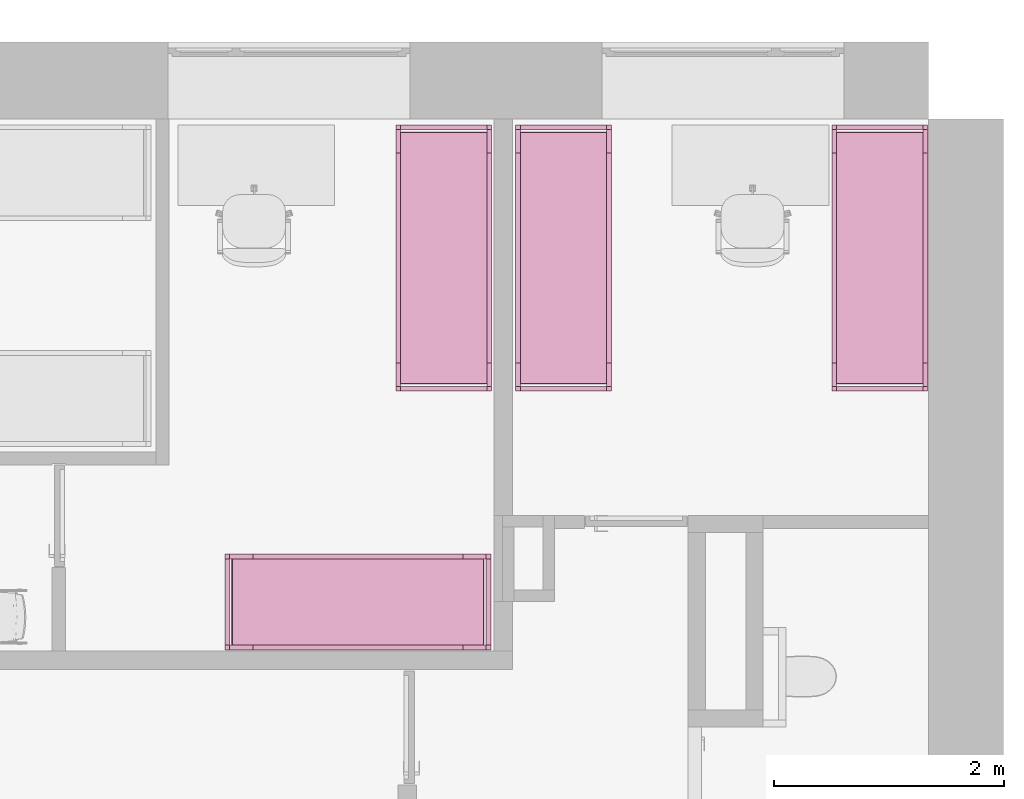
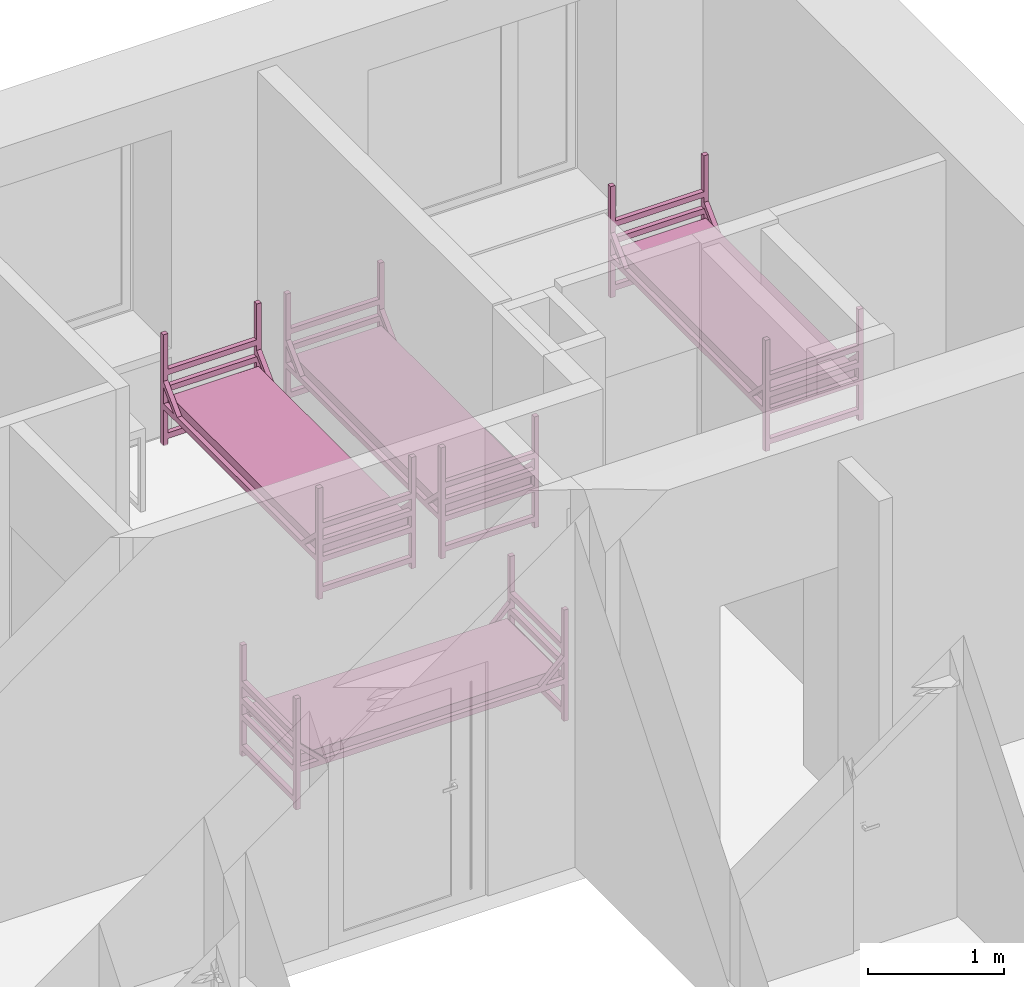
# One storey, part 44 of 46: 4 furnishings.
"""IFC2X3 building model written with IfcOpenShell, lengths in millimetres."""

from ifc_helpers import new_model, entity, si_unit, converted_unit, derived_unit, direction, frame, frame_2d, origin, origin_2d_with_axis, place, context, subcontext, project, spatial, polyline, circle_curve, parameter, trimmed, segment, composite_curve, rectangle, outline, extrude, source, transform, mapped, material, type_object, type_shapes, element, save


model = new_model("IFC2X3")

# Units and contexts
model_context = context("Model", 3, precision=0.01, world=origin(), true_north=direction((6.12303176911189e-17, 1.0)))
body_context = subcontext(model_context, "Body", "Model", "MODEL_VIEW")
ifc_project = project(units=[si_unit("LENGTHUNIT", "METRE", prefix="MILLI"), si_unit("AREAUNIT", "SQUARE_METRE"), si_unit("VOLUMEUNIT", "CUBIC_METRE"), converted_unit("PLANEANGLEUNIT", "DEGREE", entity("IfcRatioMeasure", 0.0174532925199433), si_unit("PLANEANGLEUNIT", "RADIAN"), dimensions=[0, 0, 0, 0, 0, 0, 0]), si_unit("MASSUNIT", "GRAM", prefix="KILO"), derived_unit("MASSDENSITYUNIT", [(si_unit("MASSUNIT", "GRAM", prefix="KILO"), 1), (si_unit("LENGTHUNIT", "METRE"), -3)]), si_unit("TIMEUNIT", "SECOND"), si_unit("FREQUENCYUNIT", "HERTZ"), si_unit("THERMODYNAMICTEMPERATUREUNIT", "DEGREE_CELSIUS"), derived_unit("THERMALTRANSMITTANCEUNIT", [(si_unit("MASSUNIT", "GRAM", prefix="KILO"), 1), (si_unit("THERMODYNAMICTEMPERATUREUNIT", "KELVIN"), -1), (si_unit("TIMEUNIT", "SECOND"), -3)]), derived_unit("VOLUMETRICFLOWRATEUNIT", [(si_unit("LENGTHUNIT", "METRE"), 3), (si_unit("TIMEUNIT", "SECOND"), -1)]), si_unit("ELECTRICCURRENTUNIT", "AMPERE"), si_unit("ELECTRICVOLTAGEUNIT", "VOLT"), si_unit("POWERUNIT", "WATT"), si_unit("FORCEUNIT", "NEWTON", prefix="KILO"), si_unit("ILLUMINANCEUNIT", "LUX"), si_unit("LUMINOUSFLUXUNIT", "LUMEN"), si_unit("LUMINOUSINTENSITYUNIT", "CANDELA"), derived_unit("USERDEFINED", [(si_unit("MASSUNIT", "GRAM", prefix="KILO"), -1), (si_unit("LENGTHUNIT", "METRE"), -2), (si_unit("TIMEUNIT", "SECOND"), 3), (si_unit("LUMINOUSFLUXUNIT", "LUMEN"), 1)]), derived_unit("LINEARVELOCITYUNIT", [(si_unit("LENGTHUNIT", "METRE"), 1), (si_unit("TIMEUNIT", "SECOND"), -1)]), si_unit("PRESSUREUNIT", "PASCAL"), derived_unit("USERDEFINED", [(si_unit("LENGTHUNIT", "METRE"), -2), (si_unit("MASSUNIT", "GRAM", prefix="KILO"), 1), (si_unit("TIMEUNIT", "SECOND"), -2)]), derived_unit("LINEARFORCEUNIT", [(si_unit("MASSUNIT", "GRAM", prefix="KILO"), 1), (si_unit("LENGTHUNIT", "METRE"), 1), (si_unit("TIMEUNIT", "SECOND"), -2), (si_unit("LENGTHUNIT", "METRE"), -1)]), derived_unit("PLANARFORCEUNIT", [(si_unit("MASSUNIT", "GRAM", prefix="KILO"), 1), (si_unit("LENGTHUNIT", "METRE"), 1), (si_unit("TIMEUNIT", "SECOND"), -2), (si_unit("LENGTHUNIT", "METRE"), -2)])], contexts=[model_context])

# Site, building, storey, space
site_placement = place(None, origin())
site = spatial("IfcSite", under=ifc_project, at=site_placement, Name="Default", CompositionType="ELEMENT")
building_placement = place(site_placement, origin())
building = spatial("IfcBuilding", under=site, at=building_placement, Name="SMA ARH", CompositionType="ELEMENT")
storey_placement = place(building_placement, frame((0.0, 0.0, 9910.0)))
storey = spatial("IfcBuildingStorey", under=building, at=storey_placement, Name="4 Korrus", CompositionType="ELEMENT", Elevation=9909.9999999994)
space_1_placement = place(storey_placement, origin())
space_1 = spatial("IfcSpace", under=storey, at=space_1_placement, Name="4-31/1", CompositionType="ELEMENT", InteriorOrExteriorSpace="INTERNAL")

# Furnishings
ifc_material = material(Name="Madrats")
furniture_type_1 = type_object("IfcFurnitureType", Name="Kasarmu voodi ühekordne 2308x830:Kasarmu voodi ühekordne 2308x830", material=ifc_material)
shared_shape_1 = source(origin(), body_context, "Body", "SweptSolid", [
    extrude(rectangle(XDim=39.9999999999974, YDim=750.000000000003, at=frame_2d((-1.35003119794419e-13, -2.8421709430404e-14), x_axis=(1.0, 0.0))), frame((1.68638457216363, -1226.7969571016, 55.0), z_axis=(0.0, 0.0, 1.0), x_axis=(0.0, -1.0, 0.0)), (0.0, 0.0, 1.0), 49.9999999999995),
    extrude(rectangle(XDim=39.9999999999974, YDim=750.000000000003, at=frame_2d((-1.35003119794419e-13, -2.8421709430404e-14), x_axis=(1.0, 0.0))), frame((1.68638457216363, -1226.7969571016, 325.0), z_axis=(0.0, 0.0, 1.0), x_axis=(0.0, -1.0, 0.0)), (0.0, 0.0, 1.0), 49.9999999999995),
    extrude(rectangle(XDim=39.9999999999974, YDim=750.000000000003, at=frame_2d((-1.35003119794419e-13, -2.8421709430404e-14), x_axis=(1.0, 0.0))), frame((1.68638457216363, -1226.7969571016, 475.0), z_axis=(0.0, 0.0, 1.0), x_axis=(0.0, -1.0, 0.0)), (0.0, 0.0, 1.0), 49.9999999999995),
    extrude(rectangle(XDim=39.9999999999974, YDim=750.000000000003, at=frame_2d((-1.35003119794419e-13, -2.8421709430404e-14), x_axis=(1.0, 0.0))), frame((1.68638457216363, -1226.7969571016, 625.0), z_axis=(0.0, 0.0, 1.0), x_axis=(0.0, -1.0, 0.0)), (0.0, 0.0, 1.0), 50.0000000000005),
    extrude(rectangle(XDim=39.9999999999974, YDim=750.000000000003, at=frame_2d((1.35003119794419e-13, -2.8421709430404e-14), x_axis=(1.0, 0.0))), frame((1.68638457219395, 1041.2030428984, 55.0), z_axis=(0.0, 0.0, 1.0), x_axis=(0.0, -1.0, 0.0)), (0.0, 0.0, 1.0), 50.0000000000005),
    extrude(rectangle(XDim=39.9999999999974, YDim=750.000000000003, at=frame_2d((1.35003119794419e-13, -2.8421709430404e-14), x_axis=(1.0, 0.0))), frame((1.68638457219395, 1041.2030428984, 325.0), z_axis=(0.0, 0.0, 1.0), x_axis=(0.0, -1.0, 0.0)), (0.0, 0.0, 1.0), 50.0000000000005),
    extrude(rectangle(XDim=39.9999999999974, YDim=750.000000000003, at=frame_2d((1.35003119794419e-13, -2.8421709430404e-14), x_axis=(1.0, 0.0))), frame((1.68638457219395, 1041.2030428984, 475.0), z_axis=(0.0, 0.0, 1.0), x_axis=(0.0, -1.0, 0.0)), (0.0, 0.0, 1.0), 50.0000000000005),
    extrude(rectangle(XDim=39.9999999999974, YDim=750.000000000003, at=frame_2d((1.35003119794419e-13, -2.8421709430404e-14), x_axis=(1.0, 0.0))), frame((1.68638457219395, 1041.2030428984, 625.0), z_axis=(0.0, 0.0, 1.0), x_axis=(0.0, -1.0, 0.0)), (0.0, 0.0, 1.0), 49.9999999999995),
    extrude(outline(composite_curve([segment(trimmed(circle_curve(frame_2d((1085.0, -40.0), x_axis=(1.0, 0.0)), 10.0), [parameter(270.0)], [parameter(0.0)], True, "PARAMETER"), True, "CONTINUOUS"), segment(polyline([(1095.0, -40.0), (1095.0, 40.0)]), True, "CONTINUOUS"), segment(trimmed(circle_curve(frame_2d((1085.0, 40.0), x_axis=(1.0, 0.0)), 10.0), [parameter(0.0)], [parameter(90.0000000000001)], True, "PARAMETER"), True, "CONTINUOUS"), segment(polyline([(1085.0, 50.0), (-1085.0, 50.0)]), True, "CONTINUOUS"), segment(trimmed(circle_curve(frame_2d((-1085.0, 40.0), x_axis=(1.0, 0.0)), 10.0), [parameter(90.0000000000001)], [parameter(180.0)], True, "PARAMETER"), True, "CONTINUOUS"), segment(polyline([(-1095.0, 40.0), (-1095.0, -40.0)]), True, "CONTINUOUS"), segment(trimmed(circle_curve(frame_2d((-1085.0, -40.0), x_axis=(1.0, 0.0)), 10.0), [parameter(180.0)], [parameter(270.0)], True, "PARAMETER"), True, "CONTINUOUS"), segment(polyline([(-1085.0, -50.0), (1085.0, -50.0)]), True, "CONTINUOUS")], self_intersect=False)), frame((-373.313615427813, -92.7969571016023, 405.0), z_axis=(1.0, 0.0, 0.0), x_axis=(0.0, -1.0, 0.0)), (0.0, 0.0, 1.0), 750.000000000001),
    extrude(outline(polyline([(-1114.0, -100.0), (1114.0, -100.0), (1114.0, -50.0), (961.59199141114, -50.0), (1114.0, 100.0), (1114.0, 150.0), (910.789321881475, -50.0), (-910.789321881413, -50.0), (-1114.0, 150.0), (-1114.0, 100.0), (-961.591991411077, -50.0), (-1114.0, -50.0), (-1114.0, -100.0)])), frame((-413.313615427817, -92.7969571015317, 430.0), z_axis=(1.0, 0.0, 0.0), x_axis=(0.0, 1.0, 0.0)), (0.0, 0.0, 1.0), 39.9999999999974),
    extrude(outline(polyline([(-1114.0, -100.0), (1114.0, -100.0), (1114.0, -50.0), (961.591991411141, -50.0), (1114.0, 100.0), (1114.0, 150.0), (910.789321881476, -50.0), (-910.789321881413, -50.0), (-1114.0, 150.0), (-1114.0, 100.0), (-961.591991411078, -50.0), (-1114.0, -50.0), (-1114.0, -100.0)])), frame((376.686384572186, -92.796957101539, 430.0), z_axis=(1.0, 0.0, 0.0), x_axis=(0.0, 1.0, 0.0)), (0.0, 0.0, 1.0), 39.9999999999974),
    extrude(rectangle(XDim=39.9999999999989, YDim=39.9999999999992, at=frame_2d((-6.75015598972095e-14, 0.0), x_axis=(1.0, 0.0))), frame((396.686384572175, -1226.79695710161, 0.0), z_axis=(0.0, 0.0, 1.0), x_axis=(0.0, 1.0, 0.0)), (0.0, 0.0, 1.0), 995.0),
    extrude(rectangle(XDim=39.9999999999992, YDim=39.9999999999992, at=frame_2d((-1.35003119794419e-13, 0.0), x_axis=(1.0, 0.0))), frame((396.686384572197, 1041.20304289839, 0.0), z_axis=(0.0, 0.0, 1.0), x_axis=(0.0, 1.0, 0.0)), (0.0, 0.0, 1.0), 995.0),
    extrude(rectangle(XDim=40.0000000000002, YDim=39.9999999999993, at=frame_2d((-1.35003119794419e-13, 0.0), x_axis=(1.0, 0.0))), frame((-393.313615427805, 1041.2030428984, 0.0), z_axis=(0.0, 0.0, 1.0), x_axis=(0.0, 1.0, 0.0)), (0.0, 0.0, 1.0), 995.0),
    extrude(rectangle(XDim=39.9999999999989, YDim=39.9999999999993, at=frame_2d((-6.75015598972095e-14, 0.0), x_axis=(1.0, 0.0))), frame((-393.313615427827, -1226.7969571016, 0.0), z_axis=(0.0, 0.0, 1.0), x_axis=(0.0, 1.0, 0.0)), (0.0, 0.0, 1.0), 995.0),
])
type_shapes(furniture_type_1, [shared_shape_1])
for number, where, z_axis, x_axis, name in (
    (1, (35149.7939213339, 11199.8894274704, 0.0), (0.0, 0.0, 1.0), (-1.0, 0.0, 0.0), "Kasarmu voodi ühekordne 2308x830:Kasarmu voodi ühekordne 2308x830"),
    (2, (37895.0, 11199.8894274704, 0.0), (0.0, 0.0, 1.0), (-1.0, 0.0, 0.0), "Kasarmu voodi ühekordne 2308x830:Kasarmu voodi ühekordne 2308x830"),
):
    element("IfcFurnishingElement", number, at=place(space_1_placement, frame(where, z_axis=z_axis, x_axis=x_axis)), inside=space_1, type_object=furniture_type_1, material=ifc_material, Name=name, ObjectType="Kasarmu voodi ühekordne 2308x830:Kasarmu voodi ühekordne 2308x830", context=body_context, shape_type="MappedRepresentation", body=[
        mapped(shared_shape_1, transform((0.0, 0.0, 0.0), scale=1.0)),
    ])

# Space
space_2_placement = place(storey_placement, origin())
space_2 = spatial("IfcSpace", under=storey, at=space_2_placement, Name="4-31", CompositionType="ELEMENT", InteriorOrExteriorSpace="INTERNAL")

# Furnishings
furnishing_1_placement = place(space_2_placement, frame((33270.0, 8305.5014052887, 0.0), z_axis=(0.0, 0.0, 1.0), x_axis=(0.0, 1.0, 0.0)))
element("IfcFurnishingElement", 3, at=furnishing_1_placement, inside=space_2, type_object=furniture_type_1, material=ifc_material, Name="Kasarmu voodi ühekordne 2308x830:Kasarmu voodi ühekordne 2308x830", ObjectType="Kasarmu voodi ühekordne 2308x830:Kasarmu voodi ühekordne 2308x830", context=body_context, shape_type="MappedRepresentation", body=[
    mapped(shared_shape_1, transform((0.0, 0.0, 0.0), scale=1.0)),
])
furniture_type_2 = type_object("IfcFurnitureType", Name="Kasarmu voodi ühekordne 2308x830:Kasarmu voodi ühekordne 2308x830", material=ifc_material)
shared_shape_2 = source(origin(), body_context, "Body", "SweptSolid", [
    extrude(rectangle(XDim=750.000000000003, YDim=39.9999999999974, at=frame_2d((0.0, 1.35003119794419e-13), x_axis=(1.0, 0.0))), frame((1.68638457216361, 1226.7969571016, 55.0)), (0.0, 0.0, 1.0), 49.9999999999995),
    extrude(rectangle(XDim=750.000000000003, YDim=39.9999999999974, at=frame_2d((0.0, 1.35003119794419e-13), x_axis=(1.0, 0.0))), frame((1.68638457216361, 1226.7969571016, 325.0)), (0.0, 0.0, 1.0), 49.9999999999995),
    extrude(rectangle(XDim=750.000000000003, YDim=39.9999999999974, at=frame_2d((0.0, 1.35003119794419e-13), x_axis=(1.0, 0.0))), frame((1.68638457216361, 1226.7969571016, 475.0)), (0.0, 0.0, 1.0), 49.9999999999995),
    extrude(rectangle(XDim=750.000000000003, YDim=39.9999999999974, at=frame_2d((0.0, 1.35003119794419e-13), x_axis=(1.0, 0.0))), frame((1.68638457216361, 1226.7969571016, 625.0)), (0.0, 0.0, 1.0), 50.0000000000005),
    extrude(rectangle(XDim=750.000000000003, YDim=39.9999999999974, at=origin_2d_with_axis()), frame((1.68638457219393, -1041.2030428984, 55.0)), (0.0, 0.0, 1.0), 50.0000000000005),
    extrude(rectangle(XDim=750.000000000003, YDim=39.9999999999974, at=origin_2d_with_axis()), frame((1.68638457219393, -1041.2030428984, 325.0)), (0.0, 0.0, 1.0), 50.0000000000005),
    extrude(rectangle(XDim=750.000000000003, YDim=39.9999999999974, at=origin_2d_with_axis()), frame((1.68638457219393, -1041.2030428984, 475.0)), (0.0, 0.0, 1.0), 50.0000000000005),
    extrude(rectangle(XDim=750.000000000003, YDim=39.9999999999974, at=origin_2d_with_axis()), frame((1.68638457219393, -1041.2030428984, 625.0)), (0.0, 0.0, 1.0), 49.9999999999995),
    extrude(outline(composite_curve([segment(polyline([(-1085.0, -50.0), (1085.0, -50.0)]), True, "CONTINUOUS"), segment(trimmed(circle_curve(frame_2d((1085.0, -40.0), x_axis=(-1.0, 0.0)), 10.0), [parameter(90.0000000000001)], [parameter(180.0)], True, "PARAMETER"), True, "CONTINUOUS"), segment(polyline([(1095.0, -40.0), (1095.0, 40.0)]), True, "CONTINUOUS"), segment(trimmed(circle_curve(frame_2d((1085.0, 40.0), x_axis=(-1.0, 0.0)), 10.0), [parameter(180.0)], [parameter(270.0)], True, "PARAMETER"), True, "CONTINUOUS"), segment(polyline([(1085.0, 50.0), (-1085.0, 50.0)]), True, "CONTINUOUS"), segment(trimmed(circle_curve(frame_2d((-1085.0, 40.0), x_axis=(-1.0, 0.0)), 10.0), [parameter(270.0)], [parameter(0.0)], True, "PARAMETER"), True, "CONTINUOUS"), segment(polyline([(-1095.0, 40.0), (-1095.0, -40.0)]), True, "CONTINUOUS"), segment(trimmed(circle_curve(frame_2d((-1085.0, -40.0), x_axis=(-1.0, 0.0)), 10.0), [parameter(0.0)], [parameter(90.0000000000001)], True, "PARAMETER"), True, "CONTINUOUS")], self_intersect=False)), frame((-373.313615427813, 92.7969571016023, 405.0), z_axis=(1.0, 0.0, 0.0), x_axis=(0.0, -1.0, 0.0)), (0.0, 0.0, 1.0), 750.000000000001),
    extrude(outline(polyline([(-100.0, -1114.0), (-50.0, -1114.0), (-50.0, -961.591991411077), (100.0, -1114.0), (150.0, -1114.0), (-50.0, -910.789321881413), (-50.0, 910.789321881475), (150.0, 1114.0), (100.0, 1114.0), (-50.0, 961.591991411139), (-50.0, 1114.0), (-100.0, 1114.0), (-100.0, -1114.0)])), frame((-413.313615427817, 92.7969571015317, 430.0), z_axis=(1.0, 0.0, 0.0), x_axis=(0.0, 0.0, 1.0)), (0.0, 0.0, 1.0), 39.9999999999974),
    extrude(outline(polyline([(-100.0, -1114.0), (-50.0, -1114.0), (-50.0, -961.591991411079), (100.0, -1114.0), (150.0, -1114.0), (-50.0, -910.789321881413), (-50.0, 910.789321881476), (150.0, 1114.0), (100.0, 1114.0), (-50.0, 961.591991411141), (-50.0, 1114.0), (-100.0, 1114.0), (-100.0, -1114.0)])), frame((376.686384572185, 92.796957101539, 430.0), z_axis=(1.0, 0.0, 0.0), x_axis=(0.0, 0.0, 1.0)), (0.0, 0.0, 1.0), 39.9999999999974),
    extrude(rectangle(XDim=39.9999999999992, YDim=39.9999999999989, at=frame_2d((0.0, -6.75015598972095e-14), x_axis=(1.0, 0.0))), frame((396.686384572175, 1226.79695710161, 0.0), z_axis=(0.0, 0.0, 1.0), x_axis=(-1.0, 0.0, 0.0)), (0.0, 0.0, 1.0), 995.0),
    extrude(rectangle(XDim=39.9999999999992, YDim=39.9999999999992, at=origin_2d_with_axis()), frame((396.686384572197, -1041.20304289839, 0.0), z_axis=(0.0, 0.0, 1.0), x_axis=(-1.0, 0.0, 0.0)), (0.0, 0.0, 1.0), 995.0),
    extrude(rectangle(XDim=39.9999999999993, YDim=40.0000000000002, at=origin_2d_with_axis()), frame((-393.313615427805, -1041.2030428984, 0.0), z_axis=(0.0, 0.0, 1.0), x_axis=(-1.0, 0.0, 0.0)), (0.0, 0.0, 1.0), 995.0),
    extrude(rectangle(XDim=39.9999999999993, YDim=39.9999999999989, at=frame_2d((0.0, -6.75015598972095e-14), x_axis=(1.0, 0.0))), frame((-393.313615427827, 1226.7969571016, 0.0), z_axis=(0.0, 0.0, 1.0), x_axis=(-1.0, 0.0, 0.0)), (0.0, 0.0, 1.0), 995.0),
])
type_shapes(furniture_type_2, [shared_shape_2])
furnishing_2_placement = place(space_2_placement, frame((34106.2060786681, 11199.8894274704, 0.0)))
element("IfcFurnishingElement", 4, at=furnishing_2_placement, inside=space_2, type_object=furniture_type_2, material=ifc_material, Name="Kasarmu voodi ühekordne 2308x830:Kasarmu voodi ühekordne 2308x830", ObjectType="Kasarmu voodi ühekordne 2308x830:Kasarmu voodi ühekordne 2308x830", context=body_context, shape_type="MappedRepresentation", body=[
    mapped(shared_shape_2, transform((0.0, 0.0, 0.0), scale=1.0)),
])

save(model, "model.ifc")
